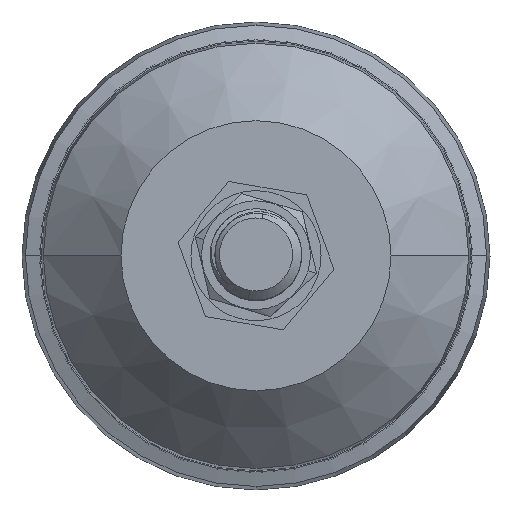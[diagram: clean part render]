
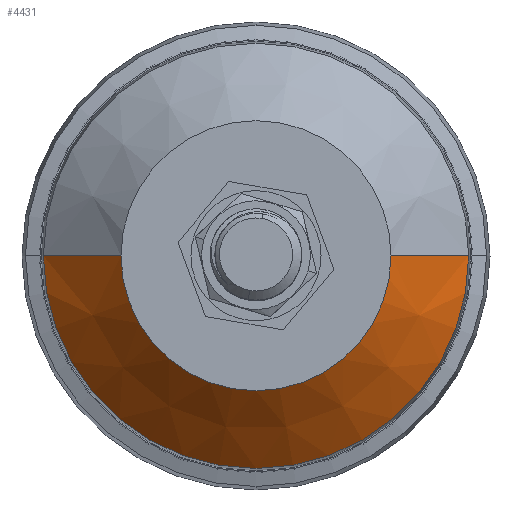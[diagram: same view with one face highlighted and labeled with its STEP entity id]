
A CAD part, top view. The second image highlights one B-rep face of the part: STEP entity #4431.
In plain terms, the highlighted conical face has half-angle 45 degrees and reference radius 46.563 mm.
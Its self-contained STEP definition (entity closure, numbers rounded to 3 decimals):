
#216 = ORIENTED_EDGE ( 'NONE', *, *, #1720, .F. ) ;
#1670 = VECTOR ( 'NONE', #15965, 1000. ) ;
#1720 = EDGE_CURVE ( 'NONE', #6008, #23312, #18039, .T. ) ;
#2623 = CIRCLE ( 'NONE', #12100, 46.563 ) ;
#3024 = ORIENTED_EDGE ( 'NONE', *, *, #24439, .T. ) ;
#4431 = ADVANCED_FACE ( 'NONE', ( #18961 ), #11844, .T. ) ;
#6008 = VERTEX_POINT ( 'NONE', #13889 ) ;
#6633 = CARTESIAN_POINT ( 'NONE',  ( 46.563, 0., 12.5 ) ) ;
#6842 = VERTEX_POINT ( 'NONE', #6633 ) ;
#6941 = DIRECTION ( 'NONE',  ( -1., 0., 0. ) ) ;
#7841 = CARTESIAN_POINT ( 'NONE',  ( 0., 0., 12.5 ) ) ;
#10000 = DIRECTION ( 'NONE',  ( 1., 0., 0. ) ) ;
#10211 = DIRECTION ( 'NONE',  ( 0., 0., 1. ) ) ;
#11844 = CONICAL_SURFACE ( 'NONE', #17683, 46.563, 0.785 ) ;
#12100 = AXIS2_PLACEMENT_3D ( 'NONE', #7841, #22912, #10000 ) ;
#12701 = EDGE_CURVE ( 'NONE', #6008, #20244, #13115, .T. ) ;
#13115 = LINE ( 'NONE', #22466, #1670 ) ;
#13889 = CARTESIAN_POINT ( 'NONE',  ( -29.563, 0., 29.5 ) ) ;
#14757 = VECTOR ( 'NONE', #26774, 1000. ) ;
#15965 = DIRECTION ( 'NONE',  ( -0.707, 0., -0.707 ) ) ;
#17683 = AXIS2_PLACEMENT_3D ( 'NONE', #24203, #19868, #6941 ) ;
#18039 = CIRCLE ( 'NONE', #21608, 29.563 ) ;
#18961 = FACE_OUTER_BOUND ( 'NONE', #27656, .T. ) ;
#19868 = DIRECTION ( 'NONE',  ( 0., 0., -1. ) ) ;
#20244 = VERTEX_POINT ( 'NONE', #23265 ) ;
#21103 = ORIENTED_EDGE ( 'NONE', *, *, #24309, .F. ) ;
#21608 = AXIS2_PLACEMENT_3D ( 'NONE', #23143, #10211, #25306 ) ;
#22447 = CARTESIAN_POINT ( 'NONE',  ( 46.563, 0., 12.5 ) ) ;
#22466 = CARTESIAN_POINT ( 'NONE',  ( -46.563, 0., 12.5 ) ) ;
#22912 = DIRECTION ( 'NONE',  ( 0., 0., 1. ) ) ;
#23143 = CARTESIAN_POINT ( 'NONE',  ( 0., 0., 29.5 ) ) ;
#23184 = CARTESIAN_POINT ( 'NONE',  ( 29.563, 0., 29.5 ) ) ;
#23265 = CARTESIAN_POINT ( 'NONE',  ( -46.563, 0., 12.5 ) ) ;
#23312 = VERTEX_POINT ( 'NONE', #23184 ) ;
#23962 = ORIENTED_EDGE ( 'NONE', *, *, #12701, .T. ) ;
#24203 = CARTESIAN_POINT ( 'NONE',  ( 0., 0., 12.5 ) ) ;
#24309 = EDGE_CURVE ( 'NONE', #23312, #6842, #26884, .T. ) ;
#24439 = EDGE_CURVE ( 'NONE', #20244, #6842, #2623, .T. ) ;
#25306 = DIRECTION ( 'NONE',  ( 1., 0., 0. ) ) ;
#26774 = DIRECTION ( 'NONE',  ( 0.707, 0., -0.707 ) ) ;
#26884 = LINE ( 'NONE', #22447, #14757 ) ;
#27656 = EDGE_LOOP ( 'NONE', ( #21103, #216, #23962, #3024 ) ) ;
